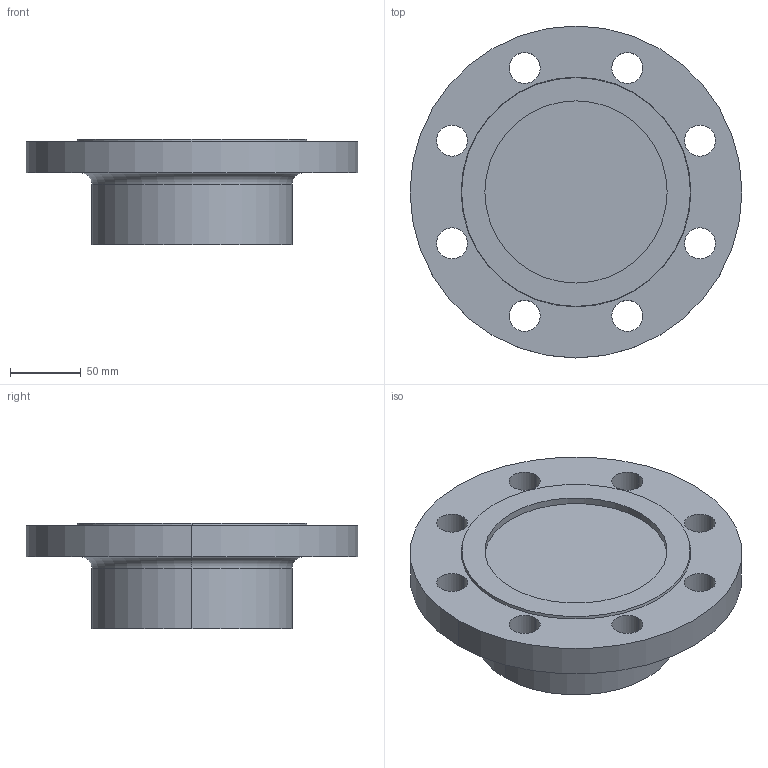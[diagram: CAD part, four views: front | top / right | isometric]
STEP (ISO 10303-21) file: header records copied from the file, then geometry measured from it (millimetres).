
FILE_DESCRIPTION (( 'STEP AP214' ), '1' );
FILE_NAME ('PN40 DN100 Type 21(i) - Type G Face.STEP', '2019-01-02T00:15:01', ( '' ), ( '' ), 'SwSTEP 2.0', 'SolidWorks 2019', '' );
FILE_SCHEMA (( 'AUTOMOTIVE_DESIGN' ));
Length unit declared in the file: millimetre
Products named in the file (1): PN40 DN100 Type 21(i) - Type G Face
Bounding box: 235 x 235 x 75 mm (x, y, z)
Volume: 1677327.3 mm3; surface area: 133201.8 mm2
Topology: 1 solids, 1 shells, 31 faces, 76 edges, 50 vertices
Faces by surface type: cylinder 22, plane 5, torus 2, cone 2
Entity records: 1012 total; most frequent: DIRECTION 192, CARTESIAN_POINT 158, ORIENTED_EDGE 152, AXIS2_PLACEMENT_3D 84, EDGE_CURVE 76, CIRCLE 52, VERTEX_POINT 50, EDGE_LOOP 50
